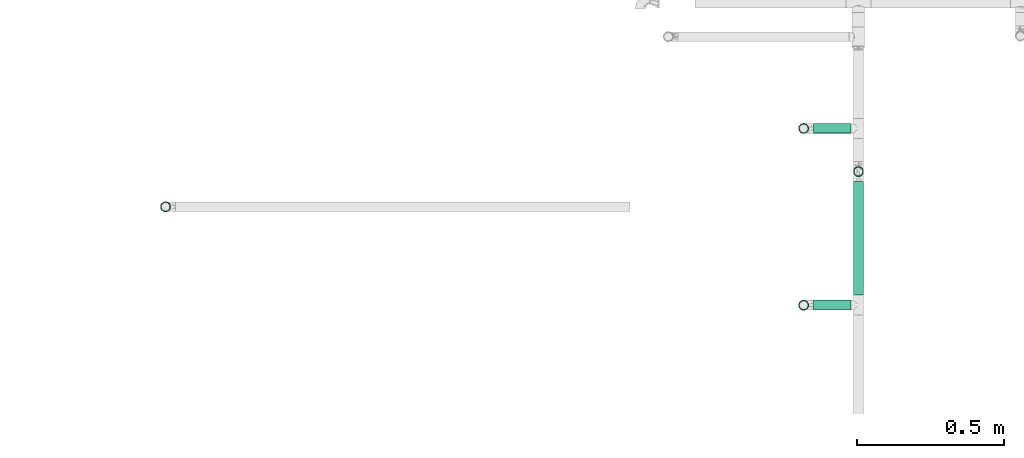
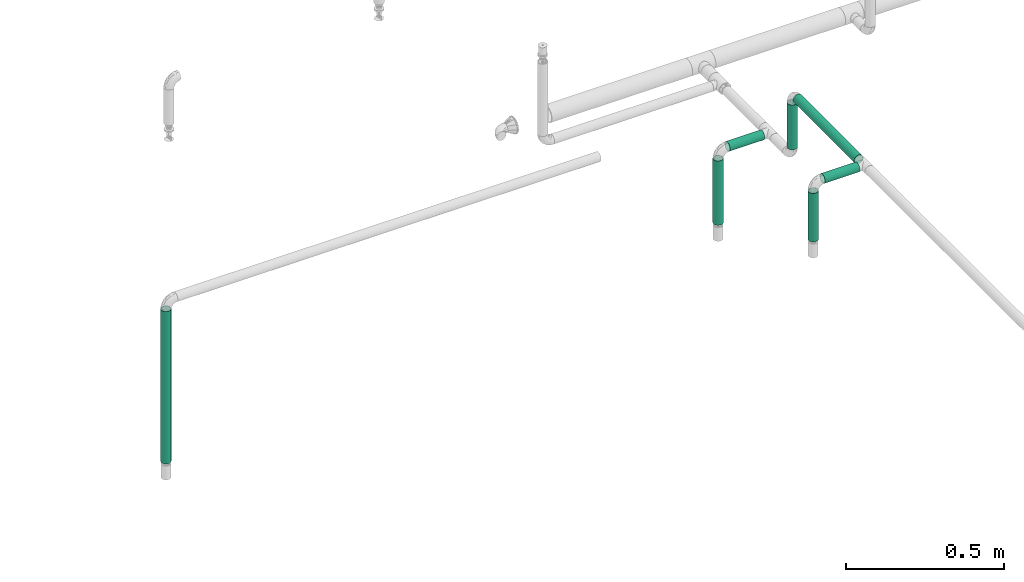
# One storey, part 7 of 157: 7 flow segments.
"""IFC2X3 building model written with IfcOpenShell, lengths in millimetres."""

from ifc_helpers import new_model, entity, si_unit, converted_unit, derived_unit, direction, frame, origin_with_axes, origin_2d_with_axis, place, context, subcontext, project, spatial, hollow_circle, extrude, source, transform, mapped, type_object, element, save


model = new_model("IFC2X3")

# Units and contexts
model_context = context("Model", 3, precision=0.01, world=frame((0.0, 4.29681676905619e-09, 0.0)), true_north=direction((4.01073788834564e-13, 1.0)))
plan_context = context("Plan", 3, precision=0.01, world=frame((0.0, 4.29681676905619e-09, 0.0)), true_north=direction((4.01073788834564e-13, 1.0)))
body_context = subcontext(model_context, "Body", "Model", "MODEL_VIEW")
ifc_project = project(units=[converted_unit("PLANEANGLEUNIT", "DEGREE", entity("IfcPositiveLengthMeasure", 0.0174532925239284), si_unit("PLANEANGLEUNIT", "RADIAN"), dimensions=[0, 0, 0, 0, 0, 0, 0]), si_unit("AREAUNIT", "SQUARE_METRE"), si_unit("LENGTHUNIT", "METRE", prefix="MILLI"), si_unit("MASSUNIT", "GRAM", prefix="KILO"), si_unit("POWERUNIT", "WATT"), si_unit("PRESSUREUNIT", "PASCAL"), si_unit("FORCEUNIT", "NEWTON", prefix="KILO"), si_unit("ELECTRICCURRENTUNIT", "AMPERE"), si_unit("THERMODYNAMICTEMPERATUREUNIT", "DEGREE_CELSIUS"), si_unit("TIMEUNIT", "SECOND"), si_unit("VOLUMEUNIT", "CUBIC_METRE"), derived_unit("LINEARVELOCITYUNIT", [(si_unit("LENGTHUNIT", "METRE"), 1), (si_unit("TIMEUNIT", "SECOND"), -1)]), derived_unit("VOLUMETRICFLOWRATEUNIT", [(si_unit("VOLUMEUNIT", "CUBIC_METRE"), 1), (si_unit("TIMEUNIT", "SECOND"), -1)]), derived_unit("THERMALTRANSMITTANCEUNIT", [(si_unit("POWERUNIT", "WATT"), 1), (si_unit("THERMODYNAMICTEMPERATUREUNIT", "KELVIN"), -1), (si_unit("AREAUNIT", "SQUARE_METRE"), -1)])], contexts=[model_context, plan_context])

# Site, building, storey
site_placement = place(None, frame((0.0, -4.29681676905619e-09, 0.0), z_axis=(0.0, 0.0, 1.0), x_axis=(1.0, 0.0, 0.0)))
site = spatial("IfcSite", under=ifc_project, at=site_placement, CompositionType="ELEMENT")
building_placement = place(site_placement, frame((0.0, 4.29681676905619e-09, 0.0), z_axis=(0.0, 0.0, 1.0), x_axis=(1.0, 0.0, 0.0)))
building = spatial("IfcBuilding", under=site, at=building_placement, Name="mc-building", CompositionType="ELEMENT")
storey_placement = place(building_placement, frame((0.0, 0.0, 204000.0), z_axis=(0.0, 0.0, 1.0), x_axis=(1.0, 0.0, 0.0)))
storey = spatial("IfcBuildingStorey", under=building, at=storey_placement, Name="Nivå D", CompositionType="ELEMENT", Elevation=204000.0)

# Flow segments
pipe_segment_type = type_object("IfcPipeSegmentType", Name="Stålrør normaltykke", PredefinedType="RIGIDSEGMENT")
shared_shape_1 = source(origin_with_axes(), body_context, "Body", "SweptSolid", [
    extrude(hollow_circle(Radius=16.9, WallThickness=2.0, at=origin_2d_with_axis()), frame((0.0, 0.0, 0.0), z_axis=(1.0, 0.0, 0.0), x_axis=(0.0, 1.0, 0.0)), (0.0, 0.0, 1.0), 247.3),
])
flow_segment_1_placement = place(storey_placement, frame((518500.0, 413600.0, 2409.35200000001), z_axis=(0.0, 1.0, 0.0), x_axis=(0.0, 0.0, 1.0)))
element("IfcFlowSegment", 1, at=flow_segment_1_placement, inside=storey, type_object=pipe_segment_type, Name="Stålrør normaltykke", context=body_context, shape_type="MappedRepresentation", body=[
    mapped(shared_shape_1, transform((0.0, 0.0, 0.0), scale=1.0)),
])
shared_shape_2 = source(origin_with_axes(), body_context, "Body", "SweptSolid", [
    extrude(hollow_circle(Radius=16.9, WallThickness=2.0, at=origin_2d_with_axis()), frame((0.0, 0.0, 0.0), z_axis=(1.0, 0.0, 0.0), x_axis=(0.0, 1.0, 0.0)), (0.0, 0.0, 1.0), 187.4),
])
flow_segment_2_placement = place(storey_placement, frame((518500.0, 413000.0, 2896.20000000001), z_axis=(1.0, 0.0, 0.0), x_axis=(0.0, 0.0, -1.0)))
element("IfcFlowSegment", 2, at=flow_segment_2_placement, inside=storey, type_object=pipe_segment_type, Name="Stålrør normaltykke", context=body_context, shape_type="MappedRepresentation", body=[
    mapped(shared_shape_2, transform((0.0, 0.0, 0.0), scale=1.0, scale2=1.0, scale3=1.0, uniform=False)),
])
shared_shape_3 = source(origin_with_axes(), body_context, "Body", "SweptSolid", [
    extrude(hollow_circle(Radius=16.9, WallThickness=2.0, at=origin_2d_with_axis()), frame((0.0, 0.0, 0.0), z_axis=(1.0, 0.0, 0.0), x_axis=(0.0, 1.0, 0.0)), (0.0, 0.0, 1.0), 172.4),
])
flow_segment_3_placement = place(storey_placement, frame((518685.97464, 413453.32717, 2723.79999999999), z_axis=(0.0, 1.0, 0.0), x_axis=(0.0, 0.0, 1.0)))
element("IfcFlowSegment", 3, at=flow_segment_3_placement, inside=storey, type_object=pipe_segment_type, Name="Stålrør normaltykke", context=body_context, shape_type="MappedRepresentation", body=[
    mapped(shared_shape_3, transform((0.0, 0.0, 0.0), scale=1.0)),
])
shared_shape_4 = source(origin_with_axes(), body_context, "Body", "SweptSolid", [
    extrude(hollow_circle(Radius=16.9, WallThickness=2.0, at=origin_2d_with_axis()), frame((0.0, 0.0, 0.0), z_axis=(1.0, 0.0, 0.0), x_axis=(0.0, 1.0, 0.0)), (0.0, 0.0, 1.0), 126.8),
])
for number, where, z_axis, x_axis in (
    (4, (518660.62464, 413000.0, 2930.0), (0.0, 0.0, 1.0), (-1.0, 0.0, 0.0)),
    (5, (518533.8, 413600.0, 2690.0), (0.0, 0.0, 1.0), (1.0, 0.0, 0.0)),
):
    element("IfcFlowSegment", number, at=place(storey_placement, frame(where, z_axis=z_axis, x_axis=x_axis)), inside=storey, type_object=pipe_segment_type, Name="Stålrør normaltykke", context=body_context, shape_type="MappedRepresentation", body=[
        mapped(shared_shape_4, transform((0.0, 0.0, 0.0), scale=1.0)),
    ])
shared_shape_5 = source(origin_with_axes(), body_context, "Body", "SweptSolid", [
    extrude(hollow_circle(Radius=16.9, WallThickness=2.0, at=origin_2d_with_axis()), frame((0.0, 0.0, 0.0), z_axis=(1.0, 0.0, 0.0), x_axis=(0.0, 1.0, 0.0)), (0.0, 0.0, 1.0), 385.7),
])
flow_segment_4_placement = place(storey_placement, frame((518685.97464, 413419.52717, 2930.0), z_axis=(0.0, 0.0, 1.0), x_axis=(0.0, -1.0, 0.0)))
element("IfcFlowSegment", 6, at=flow_segment_4_placement, inside=storey, type_object=pipe_segment_type, Name="Stålrør normaltykke", context=body_context, shape_type="MappedRepresentation", body=[
    mapped(shared_shape_5, transform((0.0, 0.0, 0.0), scale=1.0)),
])
shared_shape_6 = source(origin_with_axes(), body_context, "Body", "SweptSolid", [
    extrude(hollow_circle(Radius=16.9, WallThickness=2.0, at=origin_2d_with_axis()), frame((0.0, 0.0, 0.0), z_axis=(1.0, 0.0, 0.0), x_axis=(0.0, 1.0, 0.0)), (0.0, 0.0, 1.0), 586.8),
])
flow_segment_5_placement = place(storey_placement, frame((516334.09988, 413334.05389, 2409.35200000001), z_axis=(0.0, 1.0, 0.0), x_axis=(0.0, 0.0, 1.0)))
element("IfcFlowSegment", 7, at=flow_segment_5_placement, inside=storey, type_object=pipe_segment_type, Name="Stålrør normaltykke", context=body_context, shape_type="MappedRepresentation", body=[
    mapped(shared_shape_6, transform((0.0, 0.0, 0.0), scale=1.0)),
])

save(model, "model.ifc")
